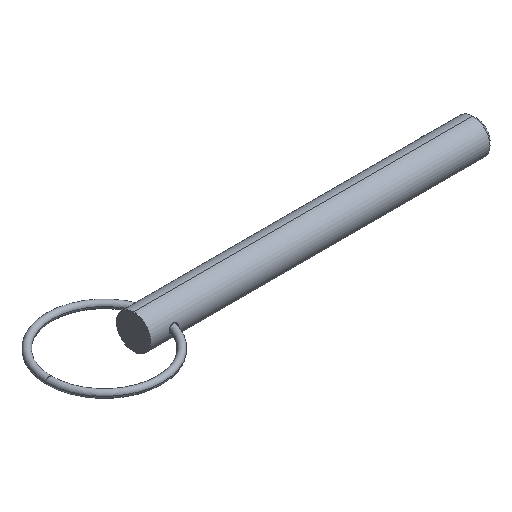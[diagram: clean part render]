
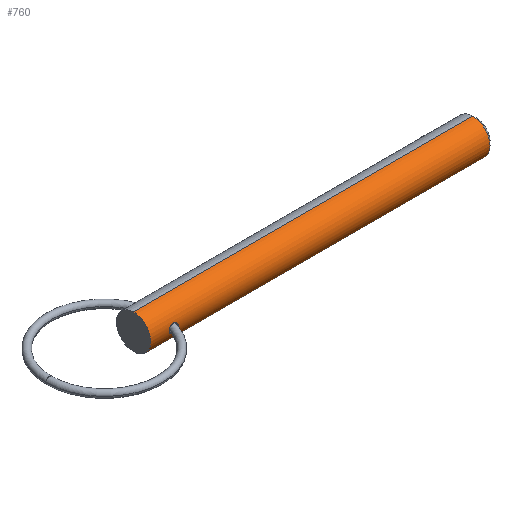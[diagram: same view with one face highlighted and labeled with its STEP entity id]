
A CAD part, isometric view. The second image highlights one B-rep face of the part: STEP entity #760.
In plain terms, the highlighted cylindrical face has radius 3.97 mm (diameter 7.94 mm), a partial arc.
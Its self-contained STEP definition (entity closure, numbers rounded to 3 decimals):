
#15 = CARTESIAN_POINT ( 'NONE',  ( 4.408, -3.939, -0.507 ) ) ;
#33 = ORIENTED_EDGE ( 'NONE', *, *, #298, .T. ) ;
#57 = VERTEX_POINT ( 'NONE', #91 ) ;
#61 = CARTESIAN_POINT ( 'NONE',  ( 0., 0., 3.97 ) ) ;
#64 = CARTESIAN_POINT ( 'NONE',  ( 4.787, -3.876, -0.878 ) ) ;
#71 = CARTESIAN_POINT ( 'NONE',  ( 6.35, -3.97, -0.133 ) ) ;
#74 = CARTESIAN_POINT ( 'NONE',  ( 5.953, -3.888, 0.81 ) ) ;
#79 = VECTOR ( 'NONE', #175, 1000. ) ;
#86 = CARTESIAN_POINT ( 'NONE',  ( 78.388, 0., -3.97 ) ) ;
#89 = DIRECTION ( 'NONE',  ( 0., 0., -1. ) ) ;
#91 = CARTESIAN_POINT ( 'NONE',  ( 4.26, -3.97, 0. ) ) ;
#97 = CIRCLE ( 'NONE', #822, 3.97 ) ;
#107 = EDGE_LOOP ( 'NONE', ( #360, #174 ) ) ;
#110 = VERTEX_POINT ( 'NONE', #223 ) ;
#116 = EDGE_CURVE ( 'NONE', #490, #448, #693, .T. ) ;
#122 = CARTESIAN_POINT ( 'NONE',  ( 5.052, -3.846, -0.984 ) ) ;
#128 = CARTESIAN_POINT ( 'NONE',  ( 4.292, -3.963, -0.267 ) ) ;
#134 = DIRECTION ( 'NONE',  ( 1., 0., 0. ) ) ;
#140 = EDGE_CURVE ( 'NONE', #110, #57, #755, .T. ) ;
#149 = EDGE_CURVE ( 'NONE', #57, #110, #164, .T. ) ;
#164 = B_SPLINE_CURVE_WITH_KNOTS ( 'NONE', 3,
 ( #528, #199, #327, #800, #464, #381, #585, #513, #277, #386, #451, #783, #74, #335, #722, #195, #330, #651 ),
 .UNSPECIFIED., .F., .F.,
 ( 4, 2, 2, 2, 2, 2, 2, 2, 4 ),
 ( 0.001, 0.001, 0.001, 0.002, 0.002, 0.003, 0.003, 0.003, 0.004 ),
 .UNSPECIFIED. ) ;
#174 = ORIENTED_EDGE ( 'NONE', *, *, #140, .T. ) ;
#175 = DIRECTION ( 'NONE',  ( 1., 0., 0. ) ) ;
#186 = AXIS2_PLACEMENT_3D ( 'NONE', #236, #480, #421 ) ;
#190 = EDGE_CURVE ( 'NONE', #363, #763, #97, .T. ) ;
#192 = CARTESIAN_POINT ( 'NONE',  ( 4.26, -3.97, -0.135 ) ) ;
#195 = CARTESIAN_POINT ( 'NONE',  ( 6.323, -3.963, 0.268 ) ) ;
#199 = CARTESIAN_POINT ( 'NONE',  ( 4.26, -3.97, 0.135 ) ) ;
#203 = CARTESIAN_POINT ( 'NONE',  ( 5.452, -3.843, -0.996 ) ) ;
#211 = ORIENTED_EDGE ( 'NONE', *, *, #116, .T. ) ;
#223 = CARTESIAN_POINT ( 'NONE',  ( 6.35, -3.97, 0. ) ) ;
#236 = CARTESIAN_POINT ( 'NONE',  ( 0., 0., 0. ) ) ;
#258 = CARTESIAN_POINT ( 'NONE',  ( 4.492, -3.923, -0.614 ) ) ;
#272 = CARTESIAN_POINT ( 'NONE',  ( 6.145, -3.922, -0.625 ) ) ;
#277 = CARTESIAN_POINT ( 'NONE',  ( 5.185, -3.845, 0.988 ) ) ;
#298 = EDGE_CURVE ( 'NONE', #448, #763, #738, .T. ) ;
#327 = CARTESIAN_POINT ( 'NONE',  ( 4.292, -3.963, 0.268 ) ) ;
#330 = CARTESIAN_POINT ( 'NONE',  ( 6.35, -3.97, 0.133 ) ) ;
#335 = CARTESIAN_POINT ( 'NONE',  ( 6.145, -3.922, 0.626 ) ) ;
#348 = CARTESIAN_POINT ( 'NONE',  ( 0., 0., -3.97 ) ) ;
#356 = CARTESIAN_POINT ( 'NONE',  ( 78.388, 0., 3.97 ) ) ;
#360 = ORIENTED_EDGE ( 'NONE', *, *, #149, .T. ) ;
#363 = VERTEX_POINT ( 'NONE', #356 ) ;
#381 = CARTESIAN_POINT ( 'NONE',  ( 4.69, -3.891, 0.791 ) ) ;
#386 = CARTESIAN_POINT ( 'NONE',  ( 5.454, -3.843, 0.996 ) ) ;
#421 = DIRECTION ( 'NONE',  ( 0., 0., -1. ) ) ;
#448 = VERTEX_POINT ( 'NONE', #808 ) ;
#451 = CARTESIAN_POINT ( 'NONE',  ( 5.587, -3.849, 0.975 ) ) ;
#464 = CARTESIAN_POINT ( 'NONE',  ( 4.492, -3.923, 0.615 ) ) ;
#478 = FACE_BOUND ( 'NONE', #107, .T. ) ;
#480 = DIRECTION ( 'NONE',  ( 1., 0., 0. ) ) ;
#490 = VERTEX_POINT ( 'NONE', #61 ) ;
#499 = LINE ( 'NONE', #694, #79 ) ;
#513 = CARTESIAN_POINT ( 'NONE',  ( 5.054, -3.852, 0.96 ) ) ;
#518 = CARTESIAN_POINT ( 'NONE',  ( 4.26, -3.97, 0. ) ) ;
#528 = CARTESIAN_POINT ( 'NONE',  ( 4.26, -3.97, 0. ) ) ;
#532 = CARTESIAN_POINT ( 'NONE',  ( 5.587, -3.849, -0.975 ) ) ;
#548 = ORIENTED_EDGE ( 'NONE', *, *, #618, .F. ) ;
#570 = ORIENTED_EDGE ( 'NONE', *, *, #190, .F. ) ;
#585 = CARTESIAN_POINT ( 'NONE',  ( 4.806, -3.876, 0.862 ) ) ;
#591 = CARTESIAN_POINT ( 'NONE',  ( 78.388, 0., 0. ) ) ;
#606 = FACE_OUTER_BOUND ( 'NONE', #673, .T. ) ;
#610 = DIRECTION ( 'NONE',  ( 1., 0., 0. ) ) ;
#618 = EDGE_CURVE ( 'NONE', #490, #363, #499, .T. ) ;
#647 = CARTESIAN_POINT ( 'NONE',  ( 5.838, -3.871, -0.882 ) ) ;
#651 = CARTESIAN_POINT ( 'NONE',  ( 6.35, -3.97, 0. ) ) ;
#654 = CARTESIAN_POINT ( 'NONE',  ( 6.221, -3.939, -0.513 ) ) ;
#671 = CARTESIAN_POINT ( 'NONE',  ( 0., 0., 0. ) ) ;
#673 = EDGE_LOOP ( 'NONE', ( #548, #211, #33, #570 ) ) ;
#677 = DIRECTION ( 'NONE',  ( 1., 0., 0. ) ) ;
#693 = CIRCLE ( 'NONE', #186, 3.97 ) ;
#694 = CARTESIAN_POINT ( 'NONE',  ( 0., 0., 3.97 ) ) ;
#711 = CARTESIAN_POINT ( 'NONE',  ( 6.323, -3.963, -0.268 ) ) ;
#718 = DIRECTION ( 'NONE',  ( 0., 0., -1. ) ) ;
#722 = CARTESIAN_POINT ( 'NONE',  ( 6.221, -3.939, 0.513 ) ) ;
#738 = LINE ( 'NONE', #348, #764 ) ;
#742 = CYLINDRICAL_SURFACE ( 'NONE', #762, 3.97 ) ;
#755 = B_SPLINE_CURVE_WITH_KNOTS ( 'NONE', 3,
 ( #780, #71, #711, #654, #272, #789, #647, #532, #203, #122, #64, #258, #15, #128, #192, #518 ),
 .UNSPECIFIED., .F., .F.,
 ( 4, 2, 2, 2, 2, 2, 2, 4 ),
 ( 0.004, 0.004, 0.005, 0.005, 0.005, 0.006, 0.007, 0.007 ),
 .UNSPECIFIED. ) ;
#760 = ADVANCED_FACE ( 'NONE', ( #606, #478 ), #742, .T. ) ;
#762 = AXIS2_PLACEMENT_3D ( 'NONE', #671, #677, #89 ) ;
#763 = VERTEX_POINT ( 'NONE', #86 ) ;
#764 = VECTOR ( 'NONE', #610, 1000. ) ;
#780 = CARTESIAN_POINT ( 'NONE',  ( 6.35, -3.97, 0. ) ) ;
#783 = CARTESIAN_POINT ( 'NONE',  ( 5.838, -3.871, 0.882 ) ) ;
#789 = CARTESIAN_POINT ( 'NONE',  ( 5.952, -3.887, -0.811 ) ) ;
#800 = CARTESIAN_POINT ( 'NONE',  ( 4.408, -3.939, 0.508 ) ) ;
#808 = CARTESIAN_POINT ( 'NONE',  ( 0., 0., -3.97 ) ) ;
#822 = AXIS2_PLACEMENT_3D ( 'NONE', #591, #134, #718 ) ;
